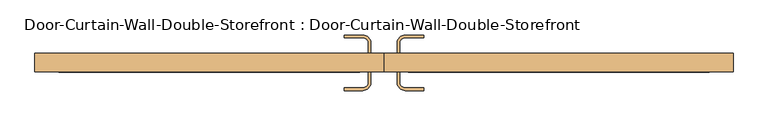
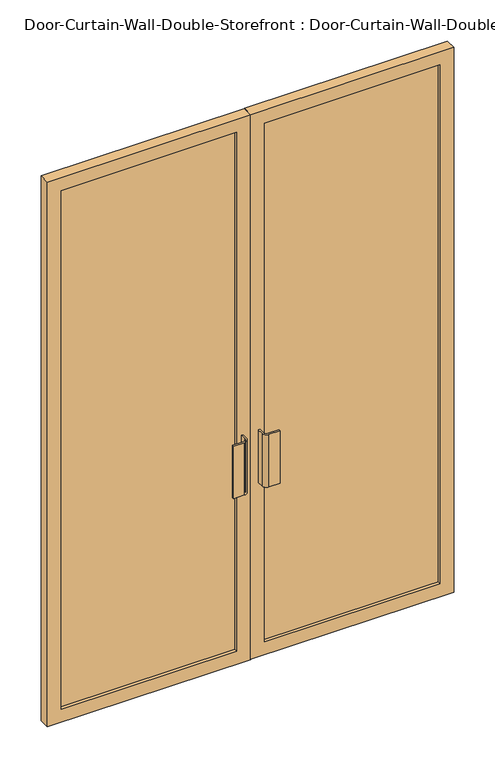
"""IFC4 building model written with IfcOpenShell, lengths in millimetres: door geometry, Door-Curtain-Wall-Double-Storefront : Door-Curtain-Wall-Double-Storefront."""

from ifc_helpers import new_model, si_unit, point, frame, frame_2d, origin, place, context, project, spatial, polyline, circle_curve, trimmed, segment, composite_curve, outline, extrude, source, transform, mapped, element, save


def door_curtain_wall_double_storefront_door_curtain_wall_double_9c4819b0(model_context):
    return source(origin(), model_context, "Body", "SweptSolid", [
        extrude(outline(polyline([(2375.0, 0.7668501), (0.0, 0.7668501), (0.0, 838.6), (2375.0, 838.6), (2375.0, 0.7668501)]), holes=[polyline([(2317.85, 57.9168501), (2317.85, 781.45), (57.15, 781.45), (57.15, 57.9168501), (2317.85, 57.9168501)])]), frame((0.0, -57.15, 0.0), z_axis=(0.0, 1.0, 0.0), x_axis=(0.0, 0.0, 1.0)), (0.0, 0.0, 1.0), 44.45),
        extrude(outline(polyline([(2375.0, -0.8206499), (2375.0, -838.6), (0.0, -838.6), (0.0, -0.8206499), (2375.0, -0.8206499)]), holes=[polyline([(2317.85, -781.45), (2317.85, -57.9706499), (57.15, -57.9706499), (57.15, -781.45), (2317.85, -781.45)])]), frame((0.0, -57.15, 0.0), z_axis=(0.0, 1.0, 0.0), x_axis=(0.0, 0.0, 1.0)), (0.0, 0.0, 1.0), 44.45),
        extrude(outline(polyline([(781.45, -25.4), (781.45, -44.45), (57.9168501, -44.45), (57.9168501, -25.4), (781.45, -25.4)])), frame((0.0, 0.0, 57.15), z_axis=(0.0, 0.0, 1.0), x_axis=(1.0, 0.0, 0.0)), (0.0, 0.0, 1.0), 2260.7),
        extrude(outline(polyline([(-57.9706499, -25.4), (-57.9706499, -44.45), (-781.45, -44.45), (-781.45, -25.4), (-57.9706499, -25.4)])), frame((0.0, 0.0, 57.15), z_axis=(0.0, 0.0, 1.0), x_axis=(1.0, 0.0, 0.0)), (0.0, 0.0, 1.0), 2260.7),
        extrude(outline(composite_curve([segment(polyline([(-31.7768999, 12.7), (-31.7768999, -12.7), (-38.1268999, -12.7), (-38.1268999, 12.7)]), True, "CONTINUOUS"), segment(trimmed(circle_curve(frame_2d((-50.8268999, 12.7)), 12.7), [point((-38.1268999, 12.7))], [point((-50.8268999, 25.4))], True, "CARTESIAN"), True, "CONTINUOUS"), segment(polyline([(-50.8268999, 25.4), (-95.2768999, 25.4), (-95.2768999, 31.75), (-50.8268999, 31.75)]), True, "CONTINUOUS"), segment(trimmed(circle_curve(frame_2d((-50.8268999, 12.7)), 19.05), [point((-50.8268999, 31.75))], [point((-31.7768999, 12.7))], False, "CARTESIAN"), True, "CONTINUOUS")], self_intersect=False)), frame((0.0, 0.0, 762.0), z_axis=(0.0, 0.0, 1.0), x_axis=(1.0, 0.0, 0.0)), (0.0, 0.0, 1.0), 228.6),
        extrude(outline(composite_curve([segment(trimmed(circle_curve(frame_2d((50.7731001, 12.7)), 19.05), [point((31.7231001, 12.7))], [point((50.7731001, 31.75))], False, "CARTESIAN"), True, "CONTINUOUS"), segment(polyline([(50.7731001, 31.75), (95.2231001, 31.75), (95.2231001, 25.4), (50.7731001, 25.4)]), True, "CONTINUOUS"), segment(trimmed(circle_curve(frame_2d((50.7731001, 12.7)), 12.7), [point((50.7731001, 25.4))], [point((38.0731001, 12.7))], True, "CARTESIAN"), True, "CONTINUOUS"), segment(polyline([(38.0731001, 12.7), (38.0731001, -12.7), (31.7231001, -12.7), (31.7231001, 12.7)]), True, "CONTINUOUS")], self_intersect=False)), frame((0.0, 0.0, 762.0), z_axis=(0.0, 0.0, 1.0), x_axis=(1.0, 0.0, 0.0)), (0.0, 0.0, 1.0), 228.6),
        extrude(outline(composite_curve([segment(trimmed(circle_curve(frame_2d((-50.8268999, -82.55)), 19.05), [point((-31.7768999, -82.55))], [point((-50.8268999, -101.6))], False, "CARTESIAN"), True, "CONTINUOUS"), segment(polyline([(-50.8268999, -101.6), (-95.2768999, -101.6), (-95.2768999, -95.25), (-50.8268999, -95.25)]), True, "CONTINUOUS"), segment(trimmed(circle_curve(frame_2d((-50.8268999, -82.55)), 12.7), [point((-50.8268999, -95.25))], [point((-38.1268999, -82.55))], True, "CARTESIAN"), True, "CONTINUOUS"), segment(polyline([(-38.1268999, -82.55), (-38.1268999, -57.15), (-31.7768999, -57.15), (-31.7768999, -82.55)]), True, "CONTINUOUS")], self_intersect=False)), frame((0.0, 0.0, 762.0), z_axis=(0.0, 0.0, 1.0), x_axis=(1.0, 0.0, 0.0)), (0.0, 0.0, 1.0), 228.6),
        extrude(outline(composite_curve([segment(polyline([(31.7231001, -82.55), (31.7231001, -57.15), (38.0731001, -57.15), (38.0731001, -82.55)]), True, "CONTINUOUS"), segment(trimmed(circle_curve(frame_2d((50.7731001, -82.55)), 12.7), [point((38.0731001, -82.55))], [point((50.7731001, -95.25))], True, "CARTESIAN"), True, "CONTINUOUS"), segment(polyline([(50.7731001, -95.25), (95.2231001, -95.25), (95.2231001, -101.6), (50.7731001, -101.6)]), True, "CONTINUOUS"), segment(trimmed(circle_curve(frame_2d((50.7731001, -82.55)), 19.05), [point((50.7731001, -101.6))], [point((31.7231001, -82.55))], False, "CARTESIAN"), True, "CONTINUOUS")], self_intersect=False)), frame((0.0, 0.0, 762.0), z_axis=(0.0, 0.0, 1.0), x_axis=(1.0, 0.0, 0.0)), (0.0, 0.0, 1.0), 228.6),
    ])


if __name__ == "__main__":
    model = new_model("IFC4")
    model_context = context("Model", 3, world=origin())
    ifc_project = project(units=[si_unit("LENGTHUNIT", "METRE", prefix="MILLI")], contexts=[model_context])
    site = spatial("IfcSite", under=ifc_project)
    building = spatial("IfcBuilding", under=site)
    placement = place(None, origin())
    door_curtain_wall_double_storefront_door_curtain_wall_double_shape = door_curtain_wall_double_storefront_door_curtain_wall_double_9c4819b0(model_context)
    element("IfcDoor", 1, ObjectType="Door-Curtain-Wall-Double-Storefront : Door-Curtain-Wall-Double-Storefront", at=placement, inside=building, context=model_context, shape_type="MappedRepresentation", body=[
        mapped(door_curtain_wall_double_storefront_door_curtain_wall_double_shape, transform((0.0, 0.0, 0.0), x_axis=(1.0, 0.0, 0.0), y_axis=(0.0, 1.0, 0.0), z_axis=(0.0, 0.0, 1.0))),
    ])
    save(model, "model.ifc")
